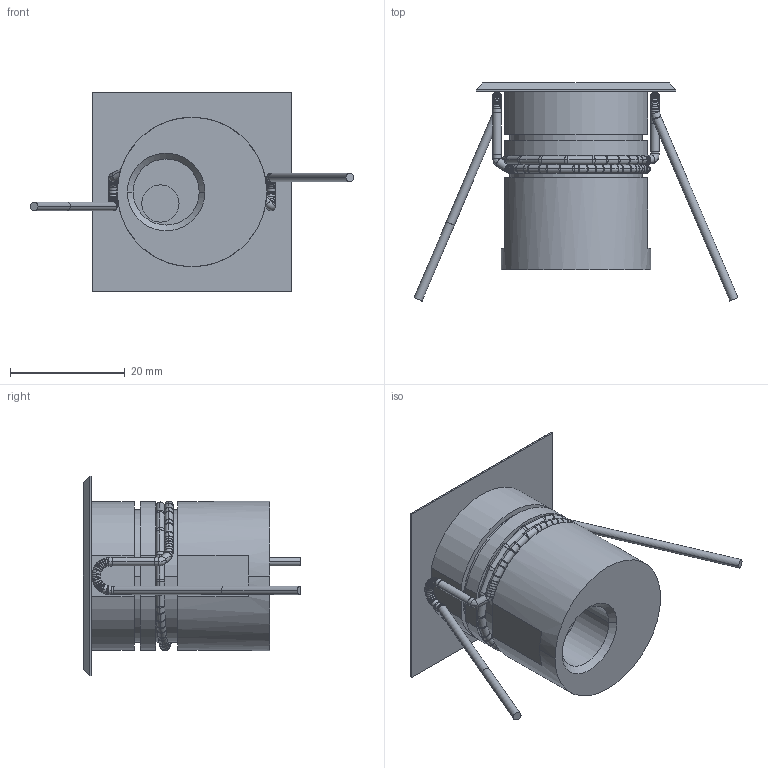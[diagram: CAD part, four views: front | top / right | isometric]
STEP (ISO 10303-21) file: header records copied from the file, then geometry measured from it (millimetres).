
FILE_DESCRIPTION((''),'2;1');
FILE_NAME('CNC35-Q-OTTICA_SW0001','2025-07-30T14:43:22',('Piccioli'),(''),'CREO PARAMETRIC BY PTC INC, 2025010','CREO PARAMETRIC BY PTC INC, 2025010','');
FILE_SCHEMA(('CONFIG_CONTROL_DESIGN'));
Length unit declared in the file: millimetre
Products named in the file (1): CNC35-Q-OTTICA_SW0001
Bounding box: 56.38 x 37.94 x 34.8 mm (x, y, z)
Surface area: 7832.9 mm2 (no closed solid volume)
Topology: 0 solids, 10 shells, 464 faces, 1105 edges, 600 vertices
Faces by surface type: cylinder 245, torus 161, plane 28, bspline 26, cone 4
Entity records: 13775 total; most frequent: CARTESIAN_POINT 2902, DIRECTION 2718, ORIENTED_EDGE 1974, AXIS2_PLACEMENT_3D 1210, EDGE_CURVE 1086, CIRCLE 772, VERTEX_POINT 600, EDGE_LOOP 475
